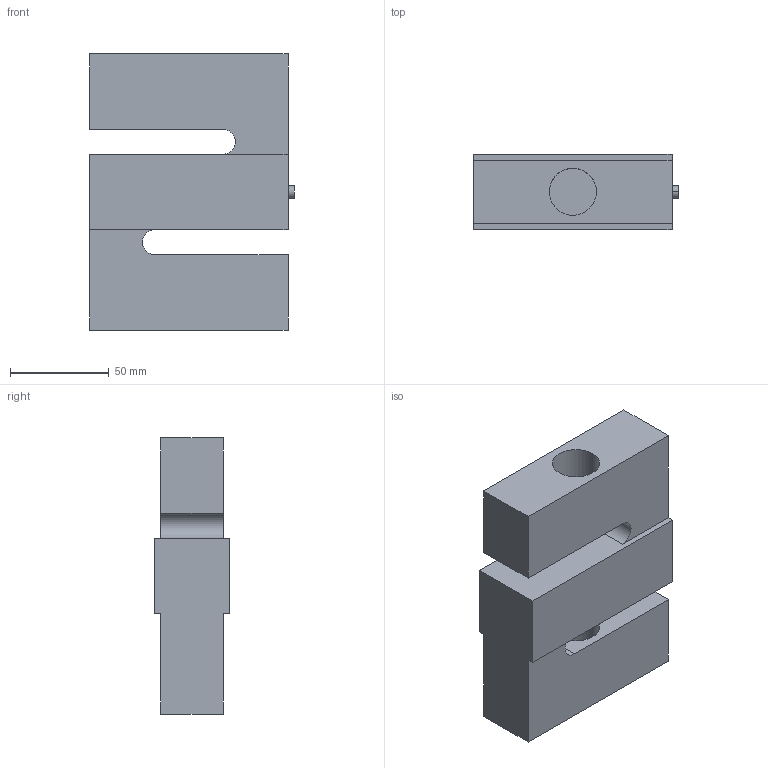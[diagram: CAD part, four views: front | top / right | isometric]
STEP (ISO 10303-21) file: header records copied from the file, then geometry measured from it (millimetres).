
FILE_DESCRIPTION (( 'STEP AP214' ), '1' );
FILE_NAME ('SS1009-15K.STEP', '2014-05-20T18:50:08', ( '' ), ( '' ), 'SwSTEP 2.0', 'SolidWorks 2008', '' );
FILE_SCHEMA (( 'AUTOMOTIVE_DESIGN' ));
Length unit declared in the file: inch
Products named in the file (1): SS1009-15K
Bounding box: 103.5 x 38.1 x 139.7 mm (x, y, z)
Volume: 377145.4 mm3; surface area: 54350.6 mm2
Topology: 1 solids, 1 shells, 25 faces, 66 edges, 44 vertices
Faces by surface type: plane 17, cylinder 8
Entity records: 863 total; most frequent: CARTESIAN_POINT 136, DIRECTION 134, ORIENTED_EDGE 132, EDGE_CURVE 66, VECTOR 50, LINE 50, VERTEX_POINT 44, AXIS2_PLACEMENT_3D 42
